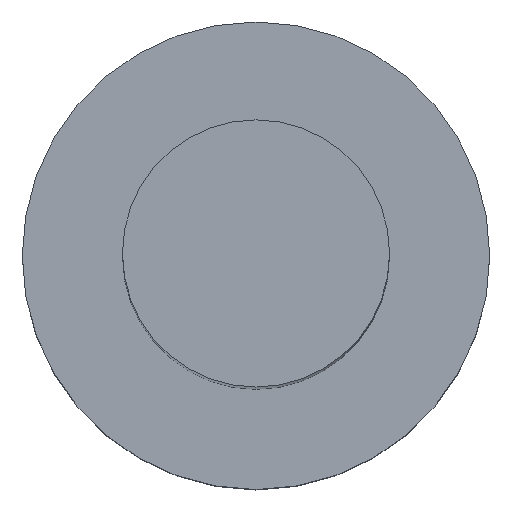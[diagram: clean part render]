
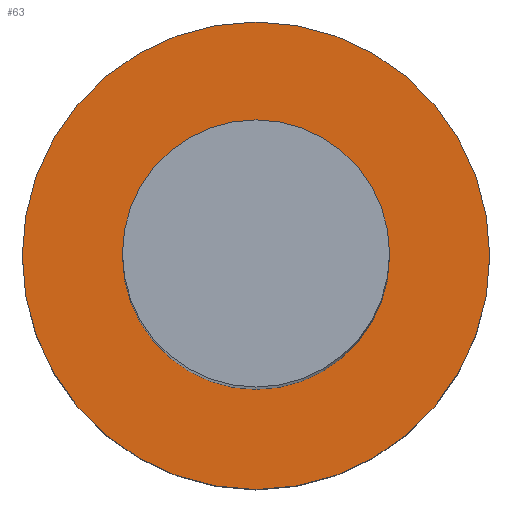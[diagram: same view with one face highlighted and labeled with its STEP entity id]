
A CAD part, top view. The second image highlights one B-rep face of the part: STEP entity #63.
In plain terms, the highlighted planar face has unit normal (0, 0, 1).
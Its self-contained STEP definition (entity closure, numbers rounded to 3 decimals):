
#7 = EDGE_LOOP ( 'NONE', ( #176, #93 ) ) ;
#17 = DIRECTION ( 'NONE',  ( 0., 0., 1. ) ) ;
#24 = EDGE_CURVE ( 'NONE', #49, #33, #191, .T. ) ;
#30 = DIRECTION ( 'NONE',  ( 1., 0., 0. ) ) ;
#31 = AXIS2_PLACEMENT_3D ( 'NONE', #39, #211, #134 ) ;
#33 = VERTEX_POINT ( 'NONE', #185 ) ;
#35 = CARTESIAN_POINT ( 'NONE',  ( 0., 0., 0. ) ) ;
#39 = CARTESIAN_POINT ( 'NONE',  ( 0., 0., 0. ) ) ;
#42 = ORIENTED_EDGE ( 'NONE', *, *, #90, .F. ) ;
#46 = CARTESIAN_POINT ( 'NONE',  ( 0., 0., 0. ) ) ;
#49 = VERTEX_POINT ( 'NONE', #61 ) ;
#55 = AXIS2_PLACEMENT_3D ( 'NONE', #35, #202, #161 ) ;
#61 = CARTESIAN_POINT ( 'NONE',  ( -3.5, 0., 0. ) ) ;
#62 = EDGE_CURVE ( 'NONE', #33, #49, #141, .T. ) ;
#63 = ADVANCED_FACE ( 'NONE', ( #166, #248 ), #67, .T. ) ;
#66 = EDGE_CURVE ( 'NONE', #206, #123, #120, .T. ) ;
#67 = PLANE ( 'NONE',  #117 ) ;
#72 = CARTESIAN_POINT ( 'NONE',  ( 0., 0., 0. ) ) ;
#88 = DIRECTION ( 'NONE',  ( 0., 0., 1. ) ) ;
#90 = EDGE_CURVE ( 'NONE', #123, #206, #251, .T. ) ;
#93 = ORIENTED_EDGE ( 'NONE', *, *, #62, .T. ) ;
#99 = CARTESIAN_POINT ( 'NONE',  ( 2., 0., 0. ) ) ;
#117 = AXIS2_PLACEMENT_3D ( 'NONE', #225, #230, #156 ) ;
#120 = CIRCLE ( 'NONE', #174, 2. ) ;
#123 = VERTEX_POINT ( 'NONE', #99 ) ;
#125 = EDGE_LOOP ( 'NONE', ( #226, #42 ) ) ;
#134 = DIRECTION ( 'NONE',  ( 1., 0., 0. ) ) ;
#141 = CIRCLE ( 'NONE', #208, 3.5 ) ;
#156 = DIRECTION ( 'NONE',  ( 1., 0., 0. ) ) ;
#161 = DIRECTION ( 'NONE',  ( 1., 0., 0. ) ) ;
#166 = FACE_BOUND ( 'NONE', #125, .T. ) ;
#172 = CARTESIAN_POINT ( 'NONE',  ( -2., 0., 0. ) ) ;
#174 = AXIS2_PLACEMENT_3D ( 'NONE', #72, #17, #253 ) ;
#176 = ORIENTED_EDGE ( 'NONE', *, *, #24, .T. ) ;
#185 = CARTESIAN_POINT ( 'NONE',  ( 3.5, 0., 0. ) ) ;
#191 = CIRCLE ( 'NONE', #55, 3.5 ) ;
#202 = DIRECTION ( 'NONE',  ( 0., 0., 1. ) ) ;
#206 = VERTEX_POINT ( 'NONE', #172 ) ;
#208 = AXIS2_PLACEMENT_3D ( 'NONE', #46, #88, #30 ) ;
#211 = DIRECTION ( 'NONE',  ( 0., 0., 1. ) ) ;
#225 = CARTESIAN_POINT ( 'NONE',  ( 0., 0., 0. ) ) ;
#226 = ORIENTED_EDGE ( 'NONE', *, *, #66, .F. ) ;
#230 = DIRECTION ( 'NONE',  ( 0., 0., 1. ) ) ;
#248 = FACE_OUTER_BOUND ( 'NONE', #7, .T. ) ;
#251 = CIRCLE ( 'NONE', #31, 2. ) ;
#253 = DIRECTION ( 'NONE',  ( 1., 0., 0. ) ) ;
